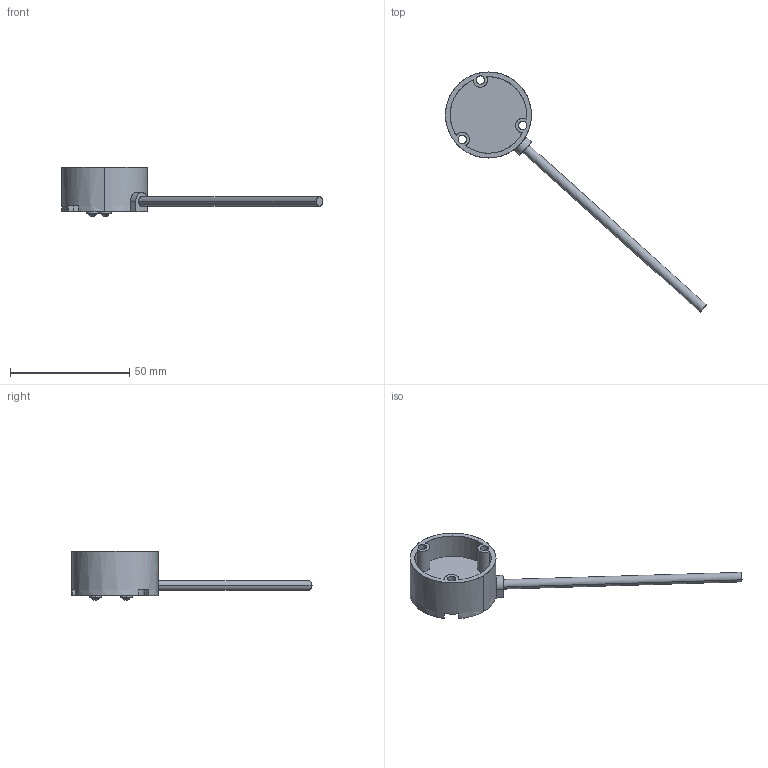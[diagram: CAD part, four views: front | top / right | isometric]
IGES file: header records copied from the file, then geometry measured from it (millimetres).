
Start section: SolidWorks IGES file using analytic representation for surfaces
Global section: file name: C:\Users\Toshiba\Desktop\SU3.IGS; native system: SolidWorks 2014; preprocessor: SolidWorks 2014; author: Toshiba; date: 160621.091108; units: metre
Bounding box: 109.26 x 100.45 x 20.6 mm (x, y, z)
Surface area: 7367.1 mm2 (no closed solid volume)
Topology: 0 solids, 0 shells, 57 faces, 1121 edges, 1117 vertices
Faces by surface type: revolution 33, bspline 24
